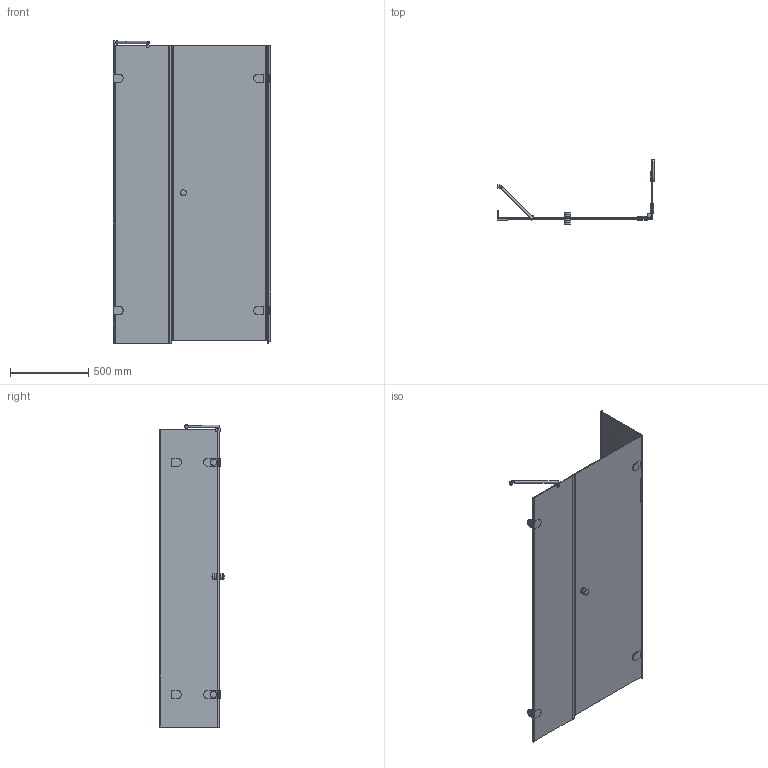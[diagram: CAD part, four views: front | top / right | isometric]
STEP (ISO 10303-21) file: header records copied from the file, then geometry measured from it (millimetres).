
FILE_DESCRIPTION(/* description */ (''),/* implementation_level */ '2;1');
FILE_NAME(/* name */ 'E:\Работа\Сергей\Душевые кабинки\! Работа\LUX SQUARE GK-003AiN\LUX SQUARE GK-003AiN правая модель\LUX SQUARE GK-003AiN ПРАВАЯ-3D.stp',/* time_stamp */ '2017-05-20T10:58:14+03:00',/* author */ ('User'),/* organization */ (''),/* preprocessor_version */ 'ST-DEVELOPER v15.2',/* originating_system */ 'Autodesk Inventor 2014',/* authorisation */ '');
FILE_SCHEMA (('CONFIG_CONTROL_DESIGN'));
Length unit declared in the file: millimetre
Products named in the file (1): LUX SQUARE GK-003AiN ПРАВАЯ-
3D
Bounding box: 1005.58 x 414.36 x 1930.5 mm (x, y, z)
Volume: 16428778.4 mm3; surface area: 5525935.6 mm2
Topology: 4 solids, 4 shells, 373 faces, 992 edges, 660 vertices
Faces by surface type: plane 234, cylinder 118, torus 7, sphere 6, bspline 6, cone 2
Full cylindrical faces by diameter (mm): 12 x1, 15 x1, 20 x2, 26 x1, 30 x2, 35 x2, 38 x4, 40 x2
Entity records: 12111 total; most frequent: CARTESIAN_POINT 2315, DIRECTION 1943, ORIENTED_EDGE 1906, EDGE_CURVE 953, LINE 663, VECTOR 663, VERTEX_POINT 648, AXIS2_PLACEMENT_3D 640
